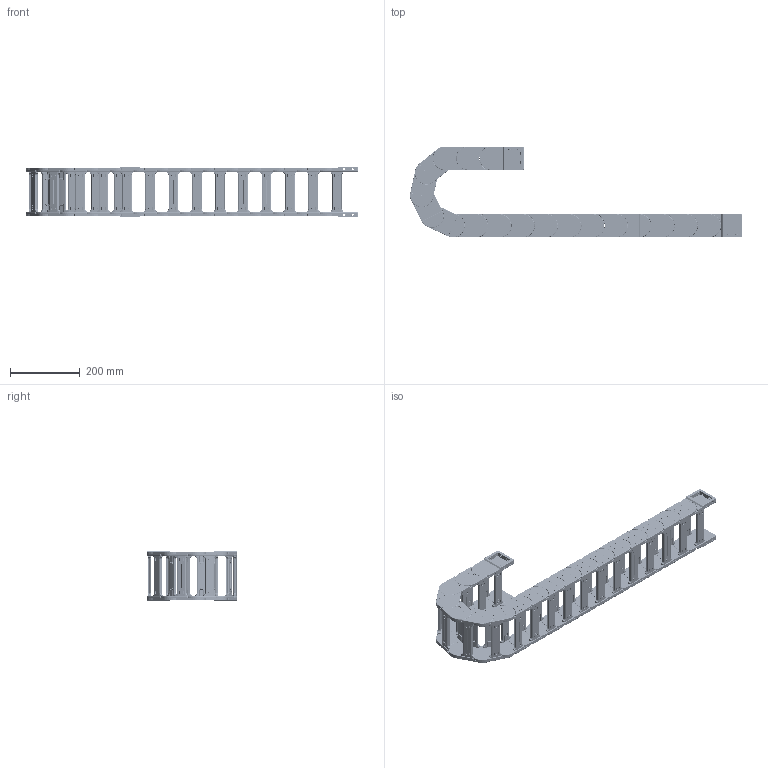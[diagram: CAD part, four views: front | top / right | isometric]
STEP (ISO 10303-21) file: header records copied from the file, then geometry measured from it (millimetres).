
FILE_DESCRIPTION (( 'STEP AP214' ), '1' );
FILE_NAME ('J45Q.1.117S-3D賦凳芞.STEP', '2019-01-10T00:10:56', ( 'Sky123.Org' ), ( 'Sky123.Org' ), 'SwSTEP 2.0', 'SolidWorks 2017', '' );
FILE_SCHEMA (( 'AUTOMOTIVE_DESIGN' ));
Length unit declared in the file: millimetre
Products named in the file (10): 5-N45X75-源諉俋; 45-N源諉芛俋; 5-N45X75-源諉囀; 45-臏簽1; 45-N源諉芛囀; 5-N45X100-1; J45.1結え; 45-崝Ч翋极2; 45-崝Ч翋极1-R250; J45Q.1.117S-3D賦凳芞
Assembly tree (55 placements, depth 3):
  J45Q.1.117S-3D賦凳芞
    5-N45X100-1  x17
      45-崝Ч翋极1-R250
      45-崝Ч翋极2
      J45.1結え
    5-N45X75-源諉囀
      45-N源諉芛囀  x2
      J45.1結え  x2
      45-臏簽1  x12
    5-N45X75-源諉俋
      45-N源諉芛俋  x2
      J45.1結え  x2
      45-臏簽1  x12
Bounding box: 954.91 x 261 x 146 mm (x, y, z)
Volume: 2835079.5 mm3; surface area: 1223073.9 mm2
Topology: 100 solids, 100 shells, 20080 faces, 51658 edges, 31520 vertices
Faces by surface type: plane 7348, cylinder 6440, bspline 3788, torus 1508, sphere 768, cone 228
Entity records: 33152 total; most frequent: CARTESIAN_POINT 10875, ORIENTED_EDGE 4608, DIRECTION 4494, EDGE_CURVE 2304, AXIS2_PLACEMENT_3D 1615, VERTEX_POINT 1438, VECTOR 1264, LINE 1264
